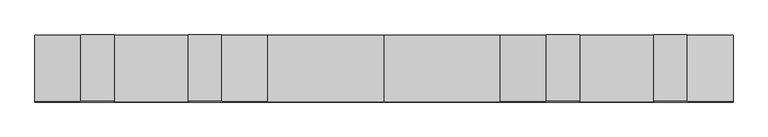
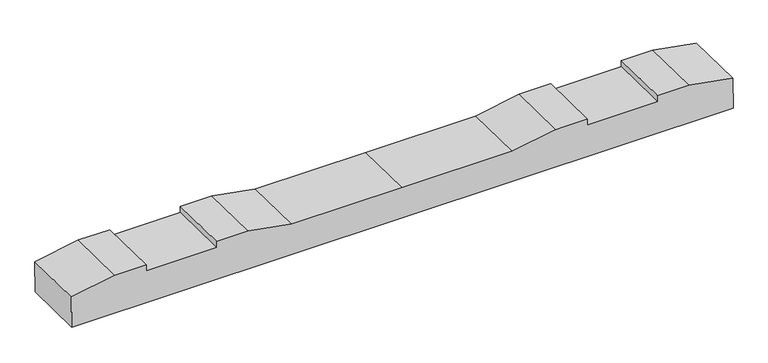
"""IFC4 building model written with IfcOpenShell, lengths in millimetres: proxy geometry, 轨枕-立面角度 : 轨枕-立面角度."""

import ifcopenshell
import ifcopenshell.guid

model = None  # the IFC model being written
_history = None  # IfcOwnerHistory: only IFC2X3 demands one
_inside = {}  # id of a spatial element -> (the spatial element, [elements in it])
_under = {}  # id of a project, library or spatial element -> (it, [spatial elements below it])
_declared = {}  # id of a project -> (the project, [libraries it declares])
_typed = {}  # id of a type object -> (the type object, [elements of that type])
_made_of = {}  # id of a material, layer set ... -> (it, [elements and type objects made of it])


def new_model(schema):
    """Start an empty IFC model of exactly this schema.

    Asked for "IFC4X3", IfcOpenShell would pick the latest addendum, in which some entities
    have other attributes; the version numbers below select the first issue.
    IFC2X3 requires an IfcOwnerHistory on every rooted entity: one is made here for all.
    """
    global model, _history
    if schema == "IFC4X3":
        model = ifcopenshell.file(schema_version=(4, 3, 0, 0))
    else:
        model = ifcopenshell.file(schema=schema)
    _inside.clear()
    _under.clear()
    _declared.clear()
    _typed.clear()
    _made_of.clear()
    _history = None
    if model.schema == "IFC2X3":
        org = make("IfcOrganization", Name="unknown")
        user = make(
            "IfcPersonAndOrganization",
            ThePerson=make("IfcPerson", FamilyName="unknown"),
            TheOrganization=org,
        )
        app = make(
            "IfcApplication",
            ApplicationDeveloper=org,
            Version="unknown",
            ApplicationFullName="unknown",
            ApplicationIdentifier="unknown",
        )
        _history = make(
            "IfcOwnerHistory",
            OwningUser=user,
            OwningApplication=app,
            ChangeAction="ADDED",
            CreationDate=0,
        )
    return model


def make(cls, **values):
    """One entity of the class cls with the attributes given. An attribute that is None is left unset."""
    return model.create_entity(
        cls, **{name: value for name, value in values.items() if value is not None}
    )


def rooted(cls, **values):
    """An entity with a GlobalId (a new one), such as an element, a storey or a relation."""
    return make(cls, GlobalId=ifcopenshell.guid.new(), OwnerHistory=_history, **values)


def si_unit(unit_type, name, prefix=None):
    """IfcSIUnit, for example si_unit("LENGTHUNIT", "METRE", prefix="MILLI")."""
    return make("IfcSIUnit", UnitType=unit_type, Prefix=prefix, Name=name)


def assignment(units):
    """IfcUnitAssignment: the units of a project."""
    return None if units is None else make("IfcUnitAssignment", Units=units)


def point(xyz):
    """IfcCartesianPoint."""
    return None if xyz is None else make("IfcCartesianPoint", Coordinates=xyz)


def direction(xyz):
    """IfcDirection."""
    return None if xyz is None else make("IfcDirection", DirectionRatios=xyz)


def frame(location, z_axis=None, x_axis=None):
    """IfcAxis2Placement3D, a coordinate frame: its origin and axes. An axis left out is left unset."""
    return make(
        "IfcAxis2Placement3D",
        Location=point(location),
        Axis=direction(z_axis),
        RefDirection=direction(x_axis),
    )


def origin():
    """The frame at (0, 0, 0) with its axes left unset."""
    return frame((0.0, 0.0, 0.0))


def place(relative_to, where):
    """IfcLocalPlacement: puts the frame where relative to a parent placement (None: the world)."""
    return make(
        "IfcLocalPlacement", PlacementRelTo=relative_to, RelativePlacement=where
    )


def context(
    kind, dimensions, precision=None, world=None, true_north=None, identifier=None
):
    """IfcGeometricRepresentationContext, for example the 3D "Model" context."""
    return make(
        "IfcGeometricRepresentationContext",
        ContextIdentifier=identifier,
        ContextType=kind,
        CoordinateSpaceDimension=dimensions,
        Precision=precision,
        WorldCoordinateSystem=world,
        TrueNorth=true_north,
    )


def project(units=None, contexts=None):
    """IfcProject with its units and contexts."""
    return rooted(
        "IfcProject",
        Name="project",
        RepresentationContexts=contexts,
        UnitsInContext=assignment(units),
    )


def spatial(cls, under=None, at=None, **own):
    """A site, building, storey or space (cls), placed at a placement, below another one or the project."""
    s = rooted(cls, ObjectPlacement=at, **own)
    if under is not None:
        _under.setdefault(under.id(), (under, []))[1].append(s)
    return s


def polyline(points):
    """IfcPolyline through the points."""
    return make("IfcPolyline", Points=[point(p) for p in points])


def outline(outer, holes=None, kind="AREA"):
    """IfcArbitraryClosedProfileDef: a profile drawn as a closed curve; with holes, ...WithVoids."""
    if holes is None:
        return make("IfcArbitraryClosedProfileDef", ProfileType=kind, OuterCurve=outer)
    return make(
        "IfcArbitraryProfileDefWithVoids",
        ProfileType=kind,
        OuterCurve=outer,
        InnerCurves=holes,
    )


def extrude(swept, where, along, depth):
    """IfcExtrudedAreaSolid: the profile swept, set in the frame where, extruded along a direction by depth."""
    return make(
        "IfcExtrudedAreaSolid",
        SweptArea=swept,
        Position=where,
        ExtrudedDirection=direction(along),
        Depth=depth,
    )


def shape(context_of_items, identifier, shape_type, items):
    """IfcShapeRepresentation: the items that make up one representation, for example the "Body"."""
    return make(
        "IfcShapeRepresentation",
        ContextOfItems=context_of_items,
        RepresentationIdentifier=identifier,
        RepresentationType=shape_type,
        Items=items,
    )


def source(mapping_origin, context_of_items, identifier, shape_type, items):
    """IfcRepresentationMap: a shape defined once, which mapped items show again and again."""
    return make(
        "IfcRepresentationMap",
        MappingOrigin=mapping_origin,
        MappedRepresentation=shape(context_of_items, identifier, shape_type, items),
    )


def transform(
    local_origin,
    x_axis=None,
    y_axis=None,
    z_axis=None,
    scale=None,
    scale2=None,
    scale3=None,
    uniform=True,
):
    """IfcCartesianTransformationOperator3D, or its non-uniform kind. x_axis, y_axis, z_axis: its Axis1, 2, 3."""
    if uniform:
        return make(
            "IfcCartesianTransformationOperator3D",
            Axis1=direction(x_axis),
            Axis2=direction(y_axis),
            LocalOrigin=point(local_origin),
            Scale=scale,
            Axis3=direction(z_axis),
        )
    return make(
        "IfcCartesianTransformationOperator3DnonUniform",
        Axis1=direction(x_axis),
        Axis2=direction(y_axis),
        LocalOrigin=point(local_origin),
        Scale=scale,
        Axis3=direction(z_axis),
        Scale2=scale2,
        Scale3=scale3,
    )


def mapped(mapping_source, mapping_target):
    """IfcMappedItem: shows the shape of a source again, moved by a transform."""
    return make(
        "IfcMappedItem", MappingSource=mapping_source, MappingTarget=mapping_target
    )


def made_of(thing, what):
    """Note that an element or type object is made of a material, layer set ...; save() writes the relation."""
    if what is not None:
        _made_of.setdefault(what.id(), (what, []))[1].append(thing)
    return thing


def element(
    cls,
    number,
    at=None,
    inside=None,
    cuts=None,
    type_object=None,
    material=None,
    context=None,
    identifier="Body",
    shape_type=None,
    held_by="IfcProductDefinitionShape",
    body=None,
    shapes=None,
    **own,
):
    """One element of the class cls, such as IfcWall. Its Tag is "e" and its number.

    at: its placement. inside: the storey or other place that contains it. cuts: it is an
    opening in that element (IfcRelVoidsElement). A single representation is given by context,
    identifier, shape_type and body (its items); several are given by shapes. held_by: the class
    of the entity that holds the representations. save() writes the other relations.
    """
    e = rooted(cls, Tag="e%d" % number, ObjectPlacement=at, **own)
    if body is not None:
        shapes = [shape(context, identifier, shape_type, body)]
    if shapes is not None:
        e.Representation = make(held_by, Representations=shapes)
    if inside is not None:
        _inside.setdefault(inside.id(), (inside, []))[1].append(e)
    if cuts is not None:
        rooted(
            "IfcRelVoidsElement", RelatingBuildingElement=cuts, RelatedOpeningElement=e
        )
    if type_object is not None:
        _typed.setdefault(type_object.id(), (type_object, []))[1].append(e)
    return made_of(e, material)


def aggregate(whole, parts):
    """IfcRelAggregates: a whole, such as a stair, and the parts it consists of."""
    return rooted("IfcRelAggregates", RelatingObject=whole, RelatedObjects=parts)


def save(model, path):
    """Write the relations noted so far, then the file.

    IfcRelAggregates (storeys below a building ...), IfcRelContainedInSpatialStructure (elements
    in a storey), IfcRelDefinesByType, IfcRelAssociatesMaterial and IfcRelDeclares: one each for
    every whole, place, type object, material and project.
    """
    for whole, parts in _under.values():
        aggregate(whole, parts)
    for where, things in _inside.values():
        rooted(
            "IfcRelContainedInSpatialStructure",
            RelatedElements=things,
            RelatingStructure=where,
        )
    for kind, things in _typed.values():
        rooted("IfcRelDefinesByType", RelatedObjects=things, RelatingType=kind)
    for what, things in _made_of.values():
        rooted("IfcRelAssociatesMaterial", RelatedObjects=things, RelatingMaterial=what)
    for by, libraries in _declared.values():
        rooted("IfcRelDeclares", RelatingContext=by, RelatedDefinitions=libraries)
    model.write(path)


def generic_models_179fccb8(model_context):
    return source(origin(), model_context, "Body", "SweptSolid", [
        extrude(outline(polyline([(0.0, 0.0), (0.0, -100.020689), (-137.8834664, -124.5000001), (-237.8834664, -124.5000001), (-237.8834664, -104.5), (-461.8834664, -104.5), (-461.8834664, -124.5000001), (-561.8834664, -124.5000001), (-699.8834664, -100.0), (-1049.8834664, -100.0), (-1399.8834664, -100.0), (-1537.8834664, -124.5000001), (-1637.8834664, -124.5000001), (-1637.8834664, -104.5), (-1861.8834664, -104.5), (-1861.8834664, -124.5000001), (-1961.8834664, -124.5000001), (-2099.7669328, -100.020689), (-2099.7669328, 0.0), (0.0, 0.0)])), frame((-1049.8834664, 98.4112111, -105.9975638), z_axis=(0.0, -0.9998860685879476, 0.015094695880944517), x_axis=(-1.0, 0.0, 0.0)), (0.0, 0.0, 1.0), 200.0),
    ])


if __name__ == "__main__":
    model = new_model("IFC4")
    model_context = context("Model", 3, world=origin())
    ifc_project = project(units=[si_unit("LENGTHUNIT", "METRE", prefix="MILLI")], contexts=[model_context])
    site = spatial("IfcSite", under=ifc_project)
    building = spatial("IfcBuilding", under=site)
    placement = place(None, origin())
    generic_models_shape = generic_models_179fccb8(model_context)
    element("IfcBuildingElementProxy", 1, Name="轨枕-立面角度 : 轨枕-立面角度", ObjectType="轨枕-立面角度 : 轨枕-立面角度", at=placement, inside=building, context=model_context, shape_type="MappedRepresentation", body=[
        mapped(generic_models_shape, transform((0.0, 0.0, 0.0), x_axis=(1.0, 0.0, 0.0), y_axis=(0.0, 1.0, 0.0), z_axis=(0.0, 0.0, 1.0))),
    ])
    save(model, "model.ifc")
